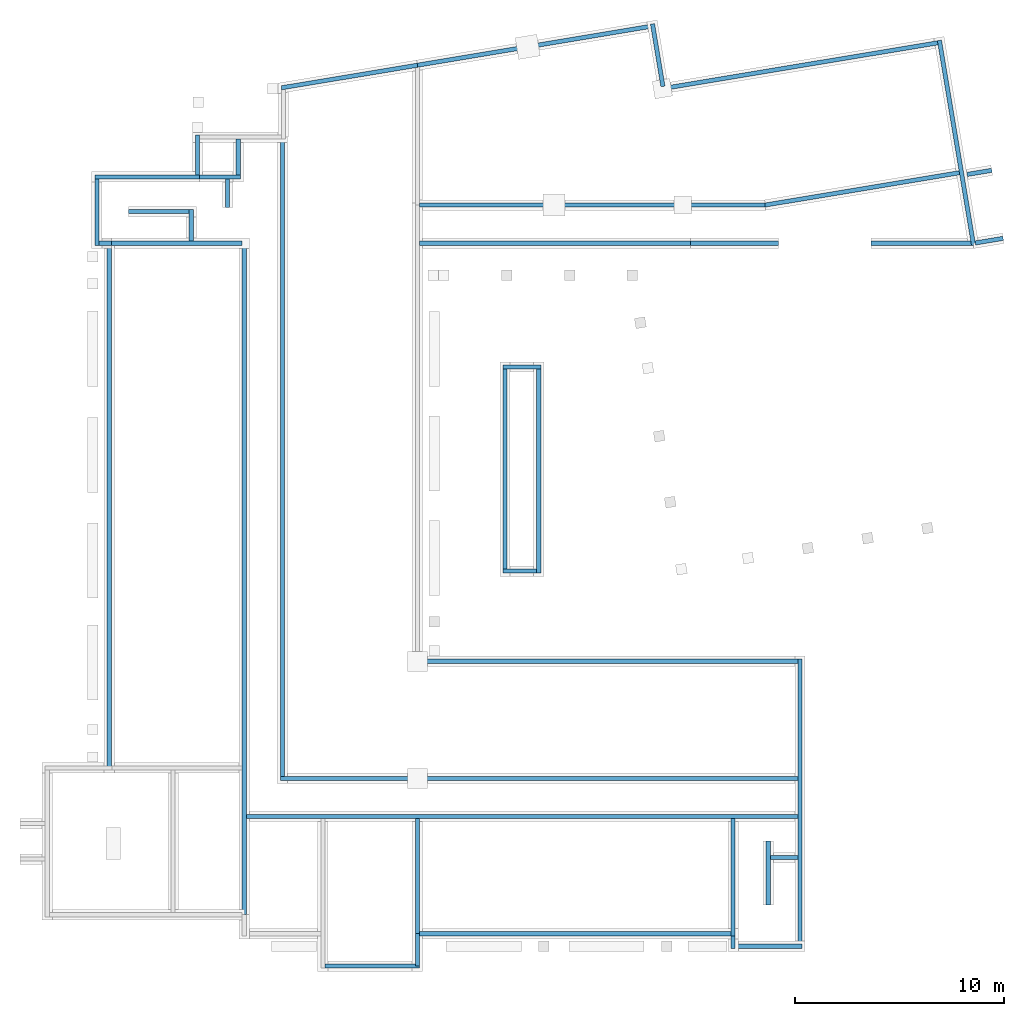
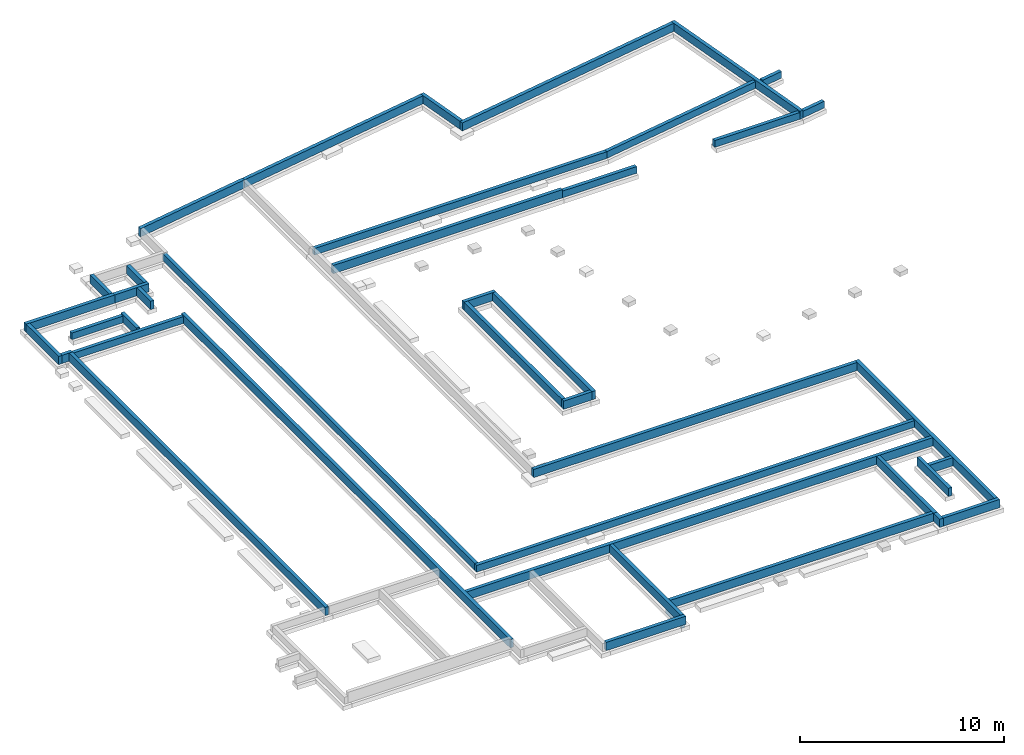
# One storey, part 4 of 5: 43 walls.
"""IFC4 building model written with IfcOpenShell, lengths in metres."""

import ifcopenshell
import ifcopenshell.guid

model = None  # the IFC model being written
_history = None  # IfcOwnerHistory: only IFC2X3 demands one
_inside = {}  # id of a spatial element -> (the spatial element, [elements in it])
_under = {}  # id of a project, library or spatial element -> (it, [spatial elements below it])
_declared = {}  # id of a project -> (the project, [libraries it declares])
_typed = {}  # id of a type object -> (the type object, [elements of that type])
_made_of = {}  # id of a material, layer set ... -> (it, [elements and type objects made of it])


def new_model(schema):
    """Start an empty IFC model of exactly this schema.

    Asked for "IFC4X3", IfcOpenShell would pick the latest addendum, in which some entities
    have other attributes; the version numbers below select the first issue.
    IFC2X3 requires an IfcOwnerHistory on every rooted entity: one is made here for all.
    """
    global model, _history
    if schema == "IFC4X3":
        model = ifcopenshell.file(schema_version=(4, 3, 0, 0))
    else:
        model = ifcopenshell.file(schema=schema)
    _inside.clear()
    _under.clear()
    _declared.clear()
    _typed.clear()
    _made_of.clear()
    _history = None
    if model.schema == "IFC2X3":
        org = make("IfcOrganization", Name="unknown")
        user = make(
            "IfcPersonAndOrganization",
            ThePerson=make("IfcPerson", FamilyName="unknown"),
            TheOrganization=org,
        )
        app = make(
            "IfcApplication",
            ApplicationDeveloper=org,
            Version="unknown",
            ApplicationFullName="unknown",
            ApplicationIdentifier="unknown",
        )
        _history = make(
            "IfcOwnerHistory",
            OwningUser=user,
            OwningApplication=app,
            ChangeAction="ADDED",
            CreationDate=0,
        )
    return model


def make(cls, **values):
    """One entity of the class cls with the attributes given. An attribute that is None is left unset."""
    return model.create_entity(
        cls, **{name: value for name, value in values.items() if value is not None}
    )


def entity(cls, *values):
    """Any entity or typed value of the class cls, its attributes in the order of the schema. None: left unset."""
    e = model.create_entity(cls)
    for i, value in enumerate(values):
        if value is not None:
            e[i] = value
    return e


def rooted(cls, **values):
    """An entity with a GlobalId (a new one), such as an element, a storey or a relation."""
    return make(cls, GlobalId=ifcopenshell.guid.new(), OwnerHistory=_history, **values)


def si_unit(unit_type, name, prefix=None):
    """IfcSIUnit, for example si_unit("LENGTHUNIT", "METRE", prefix="MILLI")."""
    return make("IfcSIUnit", UnitType=unit_type, Prefix=prefix, Name=name)


def converted_unit(unit_type, name, factor, base, dimensions=None, offset=None):
    """IfcConversionBasedUnit, such as the inch: factor (a typed value) times the base unit."""
    return make(
        "IfcConversionBasedUnit"
        if offset is None
        else "IfcConversionBasedUnitWithOffset",
        ConversionOffset=offset,
        Dimensions=None
        if dimensions is None
        else entity("IfcDimensionalExponents", *dimensions),
        UnitType=unit_type,
        Name=name,
        ConversionFactor=make(
            "IfcMeasureWithUnit", ValueComponent=factor, UnitComponent=base
        ),
    )


def derived_unit(unit_type, elements):
    """IfcDerivedUnit: a product of units, each with its exponent."""
    return make(
        "IfcDerivedUnit",
        Elements=[
            make("IfcDerivedUnitElement", Unit=unit, Exponent=power)
            for unit, power in elements
        ],
        UnitType=unit_type,
    )


def assignment(units):
    """IfcUnitAssignment: the units of a project."""
    return None if units is None else make("IfcUnitAssignment", Units=units)


def point(xyz):
    """IfcCartesianPoint."""
    return None if xyz is None else make("IfcCartesianPoint", Coordinates=xyz)


def direction(xyz):
    """IfcDirection."""
    return None if xyz is None else make("IfcDirection", DirectionRatios=xyz)


def frame(location, z_axis=None, x_axis=None):
    """IfcAxis2Placement3D, a coordinate frame: its origin and axes. An axis left out is left unset."""
    return make(
        "IfcAxis2Placement3D",
        Location=point(location),
        Axis=direction(z_axis),
        RefDirection=direction(x_axis),
    )


def origin():
    """The frame at (0, 0, 0) with its axes left unset."""
    return frame((0.0, 0.0, 0.0))


def place(relative_to, where):
    """IfcLocalPlacement: puts the frame where relative to a parent placement (None: the world)."""
    return make(
        "IfcLocalPlacement", PlacementRelTo=relative_to, RelativePlacement=where
    )


def context(
    kind, dimensions, precision=None, world=None, true_north=None, identifier=None
):
    """IfcGeometricRepresentationContext, for example the 3D "Model" context."""
    return make(
        "IfcGeometricRepresentationContext",
        ContextIdentifier=identifier,
        ContextType=kind,
        CoordinateSpaceDimension=dimensions,
        Precision=precision,
        WorldCoordinateSystem=world,
        TrueNorth=true_north,
    )


def subcontext(parent, identifier, kind, view, scale=None):
    """IfcGeometricRepresentationSubContext, for example "Body" below "Model"."""
    return make(
        "IfcGeometricRepresentationSubContext",
        ContextIdentifier=identifier,
        ContextType=kind,
        ParentContext=parent,
        TargetScale=scale,
        TargetView=view,
    )


def project(units=None, contexts=None):
    """IfcProject with its units and contexts."""
    return rooted(
        "IfcProject",
        Name="project",
        RepresentationContexts=contexts,
        UnitsInContext=assignment(units),
    )


def spatial(cls, under=None, at=None, **own):
    """A site, building, storey or space (cls), placed at a placement, below another one or the project."""
    s = rooted(cls, ObjectPlacement=at, **own)
    if under is not None:
        _under.setdefault(under.id(), (under, []))[1].append(s)
    return s


def point_list(points):
    """IfcCartesianPointList2D or 3D."""
    cls = (
        "IfcCartesianPointList2D" if len(points[0]) == 2 else "IfcCartesianPointList3D"
    )
    return make(cls, CoordList=points)


def indexed_curve(points, segments=None, self_intersect=None):
    """IfcIndexedPolyCurve: lines and arcs through numbered points (the first is 1)."""
    return make(
        "IfcIndexedPolyCurve",
        Points=point_list(points),
        Segments=segments,
        SelfIntersect=self_intersect,
    )


def outline(outer, holes=None, kind="AREA"):
    """IfcArbitraryClosedProfileDef: a profile drawn as a closed curve; with holes, ...WithVoids."""
    if holes is None:
        return make("IfcArbitraryClosedProfileDef", ProfileType=kind, OuterCurve=outer)
    return make(
        "IfcArbitraryProfileDefWithVoids",
        ProfileType=kind,
        OuterCurve=outer,
        InnerCurves=holes,
    )


def extrude(swept, where, along, depth):
    """IfcExtrudedAreaSolid: the profile swept, set in the frame where, extruded along a direction by depth."""
    return make(
        "IfcExtrudedAreaSolid",
        SweptArea=swept,
        Position=where,
        ExtrudedDirection=direction(along),
        Depth=depth,
    )


def shape(context_of_items, identifier, shape_type, items):
    """IfcShapeRepresentation: the items that make up one representation, for example the "Body"."""
    return make(
        "IfcShapeRepresentation",
        ContextOfItems=context_of_items,
        RepresentationIdentifier=identifier,
        RepresentationType=shape_type,
        Items=items,
    )


def material(Name=None, Category=None):
    """IfcMaterial."""
    return make("IfcMaterial", Name=Name, Category=Category)


def made_of(thing, what):
    """Note that an element or type object is made of a material, layer set ...; save() writes the relation."""
    if what is not None:
        _made_of.setdefault(what.id(), (what, []))[1].append(thing)
    return thing


def type_object(cls, material=None, **own):
    """A type object (cls), such as IfcWallType, which elements share."""
    return made_of(rooted(cls, **own), material)


def element(
    cls,
    number,
    at=None,
    inside=None,
    cuts=None,
    type_object=None,
    material=None,
    context=None,
    identifier="Body",
    shape_type=None,
    held_by="IfcProductDefinitionShape",
    body=None,
    shapes=None,
    **own,
):
    """One element of the class cls, such as IfcWall. Its Tag is "e" and its number.

    at: its placement. inside: the storey or other place that contains it. cuts: it is an
    opening in that element (IfcRelVoidsElement). A single representation is given by context,
    identifier, shape_type and body (its items); several are given by shapes. held_by: the class
    of the entity that holds the representations. save() writes the other relations.
    """
    e = rooted(cls, Tag="e%d" % number, ObjectPlacement=at, **own)
    if body is not None:
        shapes = [shape(context, identifier, shape_type, body)]
    if shapes is not None:
        e.Representation = make(held_by, Representations=shapes)
    if inside is not None:
        _inside.setdefault(inside.id(), (inside, []))[1].append(e)
    if cuts is not None:
        rooted(
            "IfcRelVoidsElement", RelatingBuildingElement=cuts, RelatedOpeningElement=e
        )
    if type_object is not None:
        _typed.setdefault(type_object.id(), (type_object, []))[1].append(e)
    return made_of(e, material)


def aggregate(whole, parts):
    """IfcRelAggregates: a whole, such as a stair, and the parts it consists of."""
    return rooted("IfcRelAggregates", RelatingObject=whole, RelatedObjects=parts)


def save(model, path):
    """Write the relations noted so far, then the file.

    IfcRelAggregates (storeys below a building ...), IfcRelContainedInSpatialStructure (elements
    in a storey), IfcRelDefinesByType, IfcRelAssociatesMaterial and IfcRelDeclares: one each for
    every whole, place, type object, material and project.
    """
    for whole, parts in _under.values():
        aggregate(whole, parts)
    for where, things in _inside.values():
        rooted(
            "IfcRelContainedInSpatialStructure",
            RelatedElements=things,
            RelatingStructure=where,
        )
    for kind, things in _typed.values():
        rooted("IfcRelDefinesByType", RelatedObjects=things, RelatingType=kind)
    for what, things in _made_of.values():
        rooted("IfcRelAssociatesMaterial", RelatedObjects=things, RelatingMaterial=what)
    for by, libraries in _declared.values():
        rooted("IfcRelDeclares", RelatingContext=by, RelatedDefinitions=libraries)
    model.write(path)


model = new_model("IFC4")

# Units and contexts
model_context = context("Model", 3, precision=1e-05, world=origin(), true_north=direction((6.123031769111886e-17, 1.0)))
body_context = subcontext(model_context, "Body", "Model", "MODEL_VIEW")
ifc_project = project(units=[si_unit("LENGTHUNIT", "METRE"), si_unit("AREAUNIT", "SQUARE_METRE"), si_unit("VOLUMEUNIT", "CUBIC_METRE"), converted_unit("PLANEANGLEUNIT", "DEGREE", entity("IfcRatioMeasure", 0.017453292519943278), si_unit("PLANEANGLEUNIT", "RADIAN"), dimensions=[0, 0, 0, 0, 0, 0, 0]), si_unit("MASSUNIT", "GRAM", prefix="KILO"), derived_unit("MASSDENSITYUNIT", [(si_unit("MASSUNIT", "GRAM", prefix="KILO"), 1), (si_unit("LENGTHUNIT", "METRE"), -3)]), derived_unit("MOMENTOFINERTIAUNIT", [(si_unit("LENGTHUNIT", "METRE"), 4)]), si_unit("TIMEUNIT", "SECOND"), si_unit("FREQUENCYUNIT", "HERTZ"), si_unit("THERMODYNAMICTEMPERATUREUNIT", "DEGREE_CELSIUS"), derived_unit("THERMALTRANSMITTANCEUNIT", [(si_unit("MASSUNIT", "GRAM", prefix="KILO"), 1), (si_unit("THERMODYNAMICTEMPERATUREUNIT", "KELVIN"), -1), (si_unit("TIMEUNIT", "SECOND"), -3)]), derived_unit("VOLUMETRICFLOWRATEUNIT", [(si_unit("LENGTHUNIT", "METRE"), 3), (si_unit("TIMEUNIT", "SECOND"), -1)]), derived_unit("MASSFLOWRATEUNIT", [(si_unit("MASSUNIT", "GRAM", prefix="KILO"), 1), (si_unit("TIMEUNIT", "SECOND"), -1)]), derived_unit("ROTATIONALFREQUENCYUNIT", [(si_unit("TIMEUNIT", "SECOND"), -1)]), si_unit("ELECTRICCURRENTUNIT", "AMPERE"), si_unit("ELECTRICVOLTAGEUNIT", "VOLT"), si_unit("POWERUNIT", "WATT"), si_unit("FORCEUNIT", "NEWTON", prefix="KILO"), si_unit("ILLUMINANCEUNIT", "LUX"), si_unit("LUMINOUSFLUXUNIT", "LUMEN"), si_unit("LUMINOUSINTENSITYUNIT", "CANDELA"), derived_unit("USERDEFINED", [(si_unit("MASSUNIT", "GRAM", prefix="KILO"), -1), (si_unit("LENGTHUNIT", "METRE"), -2), (si_unit("TIMEUNIT", "SECOND"), 3), (si_unit("LUMINOUSFLUXUNIT", "LUMEN"), 1)]), derived_unit("SOUNDPOWERUNIT", [(si_unit("MASSUNIT", "GRAM", prefix="KILO"), 1), (si_unit("LENGTHUNIT", "METRE"), 2), (si_unit("TIMEUNIT", "SECOND"), -3)]), derived_unit("SOUNDPRESSUREUNIT", [(si_unit("MASSUNIT", "GRAM", prefix="KILO"), 1), (si_unit("LENGTHUNIT", "METRE"), -1), (si_unit("TIMEUNIT", "SECOND"), -2)]), derived_unit("LINEARVELOCITYUNIT", [(si_unit("LENGTHUNIT", "METRE"), 1), (si_unit("TIMEUNIT", "SECOND"), -1)]), si_unit("PRESSUREUNIT", "PASCAL"), derived_unit("USERDEFINED", [(si_unit("LENGTHUNIT", "METRE"), -2), (si_unit("MASSUNIT", "GRAM", prefix="KILO"), 1), (si_unit("TIMEUNIT", "SECOND"), -2)]), derived_unit("LINEARFORCEUNIT", [(si_unit("MASSUNIT", "GRAM", prefix="KILO"), 1), (si_unit("LENGTHUNIT", "METRE"), 1), (si_unit("TIMEUNIT", "SECOND"), -2), (si_unit("LENGTHUNIT", "METRE"), -1)]), derived_unit("PLANARFORCEUNIT", [(si_unit("MASSUNIT", "GRAM", prefix="KILO"), 1), (si_unit("LENGTHUNIT", "METRE"), 1), (si_unit("TIMEUNIT", "SECOND"), -2), (si_unit("LENGTHUNIT", "METRE"), -2)])], contexts=[model_context])

# Site, building, storey
site_placement = place(None, origin())
site = spatial("IfcSite", under=ifc_project, at=site_placement, Name="Default", CompositionType="ELEMENT")
building_placement = place(site_placement, origin())
building = spatial("IfcBuilding", under=site, at=building_placement, CompositionType="ELEMENT")
storey_placement = place(building_placement, frame((0.0, 0.0, -0.88)))
storey = spatial("IfcBuildingStorey", under=building, at=storey_placement, Name="Arase inf soubassement", CompositionType="ELEMENT", Elevation=-0.88)

# Walls
ifc_material_1 = material(Name="Mur par défaut", Category="Divers")
wall_type_1 = type_object("IfcWallType", Name="Mur de base:Libages blocs pleins", PredefinedType="STANDARD")
wall_1_placement = place(storey_placement, frame((15.34988945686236, 10.590463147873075, 0.25), z_axis=(0.0, 0.0, 1.0), x_axis=(-0.16418684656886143, 0.9864292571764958, 0.0)))
element("IfcWall", 1, at=wall_1_placement, inside=storey, type_object=wall_type_1, material=ifc_material_1, Name="Mur de base:Libages blocs pleins", ObjectType="Mur de base:Libages blocs pleins", PredefinedType="NOTDEFINED", context=body_context, shape_type="SweptSolid", body=[
    extrude(outline(indexed_curve([(9.93999999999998, 0.10000000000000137), (-4.737543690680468e-16, 0.10000000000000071), (4.737543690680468e-16, -0.10000000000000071), (9.93999999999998, -0.1), (9.93999999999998, 0.10000000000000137)], self_intersect=False)), origin(), (0.0, 0.0, 1.0), 0.48),
])
wall_2_placement = place(storey_placement, frame((13.635647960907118, 20.280508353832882, 0.25), z_axis=(0.0, 0.0, 1.0), x_axis=(-0.9864292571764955, -0.16418684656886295, 0.0)))
element("IfcWall", 2, at=wall_2_placement, inside=storey, type_object=wall_type_1, material=ifc_material_1, Name="Mur de base:Libages blocs pleins", ObjectType="Mur de base:Libages blocs pleins", PredefinedType="NOTDEFINED", context=body_context, shape_type="SweptSolid", body=[
    extrude(outline(indexed_curve([(13.410000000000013, 0.09999999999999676), (-6.767919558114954e-16, 0.0999999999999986), (6.767919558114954e-16, -0.0999999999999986), (13.410000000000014, -0.10000000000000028), (13.410000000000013, 0.09999999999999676)], self_intersect=False)), origin(), (0.0, 0.0, 1.0), 0.48),
])
wall_3_placement = place(storey_placement, frame((0.4898558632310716, 18.19382435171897, 0.25), z_axis=(0.0, 0.0, 1.0), x_axis=(-0.16418684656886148, 0.9864292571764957, 0.0)))
element("IfcWall", 3, at=wall_3_placement, inside=storey, type_object=wall_type_1, material=ifc_material_1, Name="Mur de base:Libages blocs pleins", ObjectType="Mur de base:Libages blocs pleins", PredefinedType="NOTDEFINED", context=body_context, shape_type="SweptSolid", body=[
    extrude(outline(indexed_curve([(3.030000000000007, 0.10000000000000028), (-5.668132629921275e-16, 0.1000000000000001), (5.668132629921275e-16, -0.1000000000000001), (3.0300000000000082, -0.09999999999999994), (3.030000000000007, 0.10000000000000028)], self_intersect=False)), origin(), (0.0, 0.0, 1.0), 0.48),
])
wall_4_placement = place(storey_placement, frame((-0.08985452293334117, 21.06764339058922, 0.25), z_axis=(0.0, 0.0, 1.0), x_axis=(-0.9864292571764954, -0.1641868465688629, 0.0)))
element("IfcWall", 4, at=wall_4_placement, inside=storey, type_object=wall_type_1, material=ifc_material_1, Name="Mur de base:Libages blocs pleins", ObjectType="Mur de base:Libages blocs pleins", PredefinedType="NOTDEFINED", context=body_context, shape_type="SweptSolid", body=[
    extrude(outline(indexed_curve([(11.317178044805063, 0.09999999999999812), (-2.284172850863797e-16, 0.0999999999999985), (2.622568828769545e-16, -0.09999999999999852), (11.317178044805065, -0.0999999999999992), (11.317178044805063, 0.09999999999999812)], self_intersect=False)), origin(), (0.0, 0.0, 1.0), 0.48),
])
wall_5_placement = place(storey_placement, frame((-11.253450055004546, 19.209511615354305, 0.25), z_axis=(0.0, 0.0, 1.0), x_axis=(-0.9864292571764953, -0.16418684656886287, 0.0)))
element("IfcWall", 5, at=wall_5_placement, inside=storey, type_object=wall_type_1, material=ifc_material_1, Name="Mur de base:Libages blocs pleins", ObjectType="Mur de base:Libages blocs pleins", PredefinedType="NOTDEFINED", context=body_context, shape_type="SweptSolid", body=[
    extrude(outline(indexed_curve([(6.584731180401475, -0.09999999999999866), (6.618020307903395, 0.09999999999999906), (6.4152688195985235, 0.09999999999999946), (0.11802030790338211, 0.10000000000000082), (-3.2359115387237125e-16, 0.10000000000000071), (6.810219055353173e-16, -0.09999999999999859), (6.584731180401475, -0.09999999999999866)], self_intersect=False)), origin(), (0.0, 0.0, 1.0), 0.4899999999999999),
])
wall_6_placement = place(storey_placement, frame((-21.673450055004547, 13.869106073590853, 0.25), z_axis=(0.0, 0.0, 1.0), x_axis=(-1.0, 0.0, 0.0)))
element("IfcWall", 6, at=wall_6_placement, inside=storey, type_object=wall_type_1, material=ifc_material_1, Name="Mur de base:Libages blocs pleins", ObjectType="Mur de base:Libages blocs pleins", PredefinedType="NOTDEFINED", context=body_context, shape_type="SweptSolid", body=[
    extrude(outline(indexed_curve([(5.010000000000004, 0.10000000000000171), (-3.151796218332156e-16, 0.10000000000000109), (3.151796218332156e-16, -0.10000000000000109), (5.010000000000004, -0.10000000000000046), (5.010000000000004, 0.10000000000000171)], self_intersect=False)), origin(), (0.0, 0.0, 1.0), 0.49),
])
wall_7_placement = place(storey_placement, frame((-26.583450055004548, 13.769106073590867, 0.25), z_axis=(0.0, 0.0, 1.0), x_axis=(0.0, -1.0, 0.0)))
element("IfcWall", 7, at=wall_7_placement, inside=storey, type_object=wall_type_1, material=ifc_material_1, Name="Mur de base:Libages blocs pleins", ObjectType="Mur de base:Libages blocs pleins", PredefinedType="NOTDEFINED", context=body_context, shape_type="SweptSolid", body=[
    extrude(outline(indexed_curve([(3.1800000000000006, 0.09999999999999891), (-1.3580303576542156e-16, 0.09999999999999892), (1.3580303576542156e-16, -0.09999999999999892), (3.1800000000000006, -0.09999999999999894), (3.1800000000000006, 0.09999999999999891)], self_intersect=False)), origin(), (0.0, 0.0, 1.0), 0.49),
])
wall_8_placement = place(storey_placement, frame((-26.483450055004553, 10.689106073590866, 0.25)))
element("IfcWall", 8, at=wall_8_placement, inside=storey, type_object=wall_type_1, material=ifc_material_1, Name="Mur de base:Libages blocs pleins", ObjectType="Mur de base:Libages blocs pleins", PredefinedType="NOTDEFINED", context=body_context, shape_type="SweptSolid", body=[
    extrude(outline(indexed_curve([(0.5899999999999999, 0.10000000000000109), (-3.6707360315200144e-16, 0.10000000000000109), (3.6707360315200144e-16, -0.10000000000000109), (0.5900000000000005, -0.10000000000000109), (0.5899999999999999, 0.10000000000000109)], self_intersect=False)), origin(), (0.0, 0.0, 1.0), 0.49),
])
wall_9_placement = place(storey_placement, frame((-25.99345005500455, 10.589106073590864, 0.25), z_axis=(0.0, 0.0, 1.0), x_axis=(0.0, -1.0, 0.0)))
element("IfcWall", 9, at=wall_9_placement, inside=storey, type_object=wall_type_1, material=ifc_material_1, Name="Mur de base:Libages blocs pleins", ObjectType="Mur de base:Libages blocs pleins", PredefinedType="NOTDEFINED", context=body_context, shape_type="SweptSolid", body=[
    extrude(outline(indexed_curve([(25.095000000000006, 0.09999999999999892), (-1.5534256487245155e-16, 0.09999999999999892), (1.5534256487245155e-16, -0.09999999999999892), (25.095000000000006, -0.09999999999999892), (25.095000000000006, 0.09999999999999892)], self_intersect=False)), origin(), (0.0, 0.0, 1.0), 0.49),
])
wall_10_placement = place(storey_placement, frame((-11.153450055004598, -22.335893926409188, 0.25)))
element("IfcWall", 10, at=wall_10_placement, inside=storey, type_object=wall_type_1, material=ifc_material_1, Name="Mur de base:Libages blocs pleins", ObjectType="Mur de base:Libages blocs pleins", PredefinedType="NOTDEFINED", context=body_context, shape_type="SweptSolid", body=[
    extrude(outline(indexed_curve([(15.100000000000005, 0.09999999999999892), (-3.155374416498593e-16, 0.09999999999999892), (3.155374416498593e-16, -0.09999999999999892), (15.100000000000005, -0.09999999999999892), (15.100000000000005, 0.09999999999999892)], self_intersect=False)), origin(), (0.0, 0.0, 1.0), 0.4899999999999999),
])
wall_11_placement = place(storey_placement, frame((3.846549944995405, -22.43589392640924, 0.25), z_axis=(0.0, 0.0, 1.0), x_axis=(0.0, -1.0, 0.0)))
element("IfcWall", 11, at=wall_11_placement, inside=storey, type_object=wall_type_1, material=ifc_material_1, Name="Mur de base:Libages blocs pleins", ObjectType="Mur de base:Libages blocs pleins", PredefinedType="NOTDEFINED", context=body_context, shape_type="SweptSolid", body=[
    extrude(outline(indexed_curve([(0.5999999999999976, 0.10000000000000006), (-1.897615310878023e-16, 0.1), (1.897615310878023e-16, -0.1), (0.5999999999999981, -0.09999999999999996), (0.5999999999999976, 0.10000000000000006)], self_intersect=False)), origin(), (0.0, 0.0, 1.0), 0.4899999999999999),
])
wall_12_placement = place(storey_placement, frame((3.9465499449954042, -22.935893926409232, 0.25)))
element("IfcWall", 12, at=wall_12_placement, inside=storey, type_object=wall_type_1, material=ifc_material_1, Name="Mur de base:Libages blocs pleins", ObjectType="Mur de base:Libages blocs pleins", PredefinedType="NOTDEFINED", context=body_context, shape_type="SweptSolid", body=[
    extrude(outline(indexed_curve([(3.2, 0.09999999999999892), (-2.706812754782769e-16, 0.09999999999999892), (2.706812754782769e-16, -0.09999999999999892), (3.2, -0.09999999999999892), (3.2, 0.09999999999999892)], self_intersect=False)), origin(), (0.0, 0.0, 1.0), 0.4899999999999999),
])
wall_13_placement = place(storey_placement, frame((7.046549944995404, -22.83589392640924, 0.25), z_axis=(0.0, 0.0, 1.0), x_axis=(0.0, 1.0, 0.0)))
element("IfcWall", 13, at=wall_13_placement, inside=storey, type_object=wall_type_1, material=ifc_material_1, Name="Mur de base:Libages blocs pleins", ObjectType="Mur de base:Libages blocs pleins", PredefinedType="NOTDEFINED", context=body_context, shape_type="SweptSolid", body=[
    extrude(outline(indexed_curve([(13.629999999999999, 0.1), (-1.3506046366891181e-16, 0.1), (1.3506046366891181e-16, -0.1), (13.629999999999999, -0.1), (13.629999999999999, 0.1)], self_intersect=False)), origin(), (0.0, 0.0, 1.0), 0.49),
])
wall_14_placement = place(storey_placement, frame((6.946549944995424, -9.305893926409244, 0.25), z_axis=(0.0, 0.0, 1.0), x_axis=(-1.0, 0.0, 0.0)))
element("IfcWall", 14, at=wall_14_placement, inside=storey, type_object=wall_type_1, material=ifc_material_1, Name="Mur de base:Libages blocs pleins", ObjectType="Mur de base:Libages blocs pleins", PredefinedType="NOTDEFINED", context=body_context, shape_type="SweptSolid", body=[
    extrude(outline(indexed_curve([(18.300000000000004, 0.1), (-3.2545186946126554e-16, 0.1), (3.2545186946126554e-16, -0.1), (18.300000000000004, -0.1), (18.300000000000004, 0.1)], self_intersect=False)), origin(), (0.0, 0.0, 1.0), 0.4899999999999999),
])
wall_15_placement = place(storey_placement, frame((-11.153450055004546, 10.689106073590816, 0.25)))
element("IfcWall", 15, at=wall_15_placement, inside=storey, type_object=wall_type_1, material=ifc_material_1, Name="Mur de base:Libages blocs pleins", ObjectType="Mur de base:Libages blocs pleins", PredefinedType="NOTDEFINED", context=body_context, shape_type="SweptSolid", body=[
    extrude(outline(indexed_curve([(12.967012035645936, 0.0999999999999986), (-3.1490711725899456e-16, 0.09999999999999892), (3.1490711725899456e-16, -0.09999999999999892), (12.967012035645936, -0.09999999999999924), (12.967012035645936, 0.0999999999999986)], self_intersect=False)), origin(), (0.0, 0.0, 1.0), 0.4899999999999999),
])
wall_16_placement = place(storey_placement, frame((-7.163450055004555, 4.7741060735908, 0.25)))
element("IfcWall", 16, at=wall_16_placement, inside=storey, type_object=wall_type_1, material=ifc_material_1, Name="Mur de base:Libages blocs pleins", ObjectType="Mur de base:Libages blocs pleins", PredefinedType="NOTDEFINED", context=body_context, shape_type="SweptSolid", body=[
    extrude(outline(indexed_curve([(1.8099999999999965, 0.0999999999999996), (-3.362941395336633e-16, 0.1), (3.362941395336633e-16, -0.1), (1.8099999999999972, -0.10000000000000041), (1.8099999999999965, 0.0999999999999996)], self_intersect=False)), origin(), (0.0, 0.0, 1.0), 0.4899999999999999),
])
wall_17_placement = place(storey_placement, frame((-5.4534500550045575, 4.674106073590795, 0.25), z_axis=(0.0, 0.0, 1.0), x_axis=(0.0, -1.0, 0.0)))
element("IfcWall", 17, at=wall_17_placement, inside=storey, type_object=wall_type_1, material=ifc_material_1, Name="Mur de base:Libages blocs pleins", ObjectType="Mur de base:Libages blocs pleins", PredefinedType="NOTDEFINED", context=body_context, shape_type="SweptSolid", body=[
    extrude(outline(indexed_curve([(9.760000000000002, 0.1), (-1.664242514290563e-16, 0.1), (1.664242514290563e-16, -0.1), (9.760000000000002, -0.1), (9.760000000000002, 0.1)], self_intersect=False)), origin(), (0.0, 0.0, 1.0), 0.4899999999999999),
])
wall_18_placement = place(storey_placement, frame((-5.553450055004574, -4.985893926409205, 0.25), z_axis=(0.0, 0.0, 1.0), x_axis=(-1.0, 0.0, 0.0)))
element("IfcWall", 18, at=wall_18_placement, inside=storey, type_object=wall_type_1, material=ifc_material_1, Name="Mur de base:Libages blocs pleins", ObjectType="Mur de base:Libages blocs pleins", PredefinedType="NOTDEFINED", context=body_context, shape_type="SweptSolid", body=[
    extrude(outline(indexed_curve([(1.6099999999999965, 0.1), (-3.3629413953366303e-16, 0.1), (3.3629413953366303e-16, -0.1), (1.609999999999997, -0.1), (1.6099999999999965, 0.1)], self_intersect=False)), origin(), (0.0, 0.0, 1.0), 0.4899999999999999),
])
wall_19_placement = place(storey_placement, frame((-7.06345005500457, -4.885893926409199, 0.25), z_axis=(0.0, 0.0, 1.0), x_axis=(0.0, 1.0, 0.0)))
element("IfcWall", 19, at=wall_19_placement, inside=storey, type_object=wall_type_1, material=ifc_material_1, Name="Mur de base:Libages blocs pleins", ObjectType="Mur de base:Libages blocs pleins", PredefinedType="NOTDEFINED", context=body_context, shape_type="SweptSolid", body=[
    extrude(outline(indexed_curve([(9.559999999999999, 0.09999999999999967), (-1.664242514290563e-16, 0.1), (1.664242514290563e-16, -0.1), (9.559999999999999, -0.10000000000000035), (9.559999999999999, 0.09999999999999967)], self_intersect=False)), origin(), (0.0, 0.0, 1.0), 0.4899999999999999),
])
wall_type_2 = type_object("IfcWallType", Name="Mur de base:Libages BA", PredefinedType="STANDARD")
wall_20_placement = place(storey_placement, frame((16.22197660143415, 14.182393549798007, 0.25), z_axis=(0.0, 0.0, 1.0), x_axis=(-0.9864292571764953, -0.1641868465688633, 0.0)))
element("IfcWall", 20, at=wall_20_placement, inside=storey, type_object=wall_type_2, material=ifc_material_1, Name="Mur de base:Libages BA", ObjectType="Mur de base:Libages BA", PredefinedType="NOTDEFINED", context=body_context, shape_type="SweptSolid", body=[
    extrude(outline(indexed_curve([(1.2000000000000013, 0.1000000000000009), (-2.8340663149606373e-16, 0.10000000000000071), (2.8340663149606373e-16, -0.10000000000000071), (1.200000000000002, -0.10000000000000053), (1.2000000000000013, 0.1000000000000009)], self_intersect=False)), origin(), (0.0, 0.0, 1.0), 0.4),
])
wall_21_placement = place(storey_placement, frame((14.670025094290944, 14.066004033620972, 0.25), z_axis=(0.0, 0.0, 1.0), x_axis=(-0.9864292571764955, -0.16418684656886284, 0.0)))
element("IfcWall", 21, at=wall_21_placement, inside=storey, type_object=wall_type_2, material=ifc_material_1, Name="Mur de base:Libages BA", ObjectType="Mur de base:Libages BA", PredefinedType="NOTDEFINED", context=body_context, shape_type="SweptSolid", body=[
    extrude(outline(indexed_curve([(9.413305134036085, -0.09999999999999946), (9.429835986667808, 0.10000000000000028), (-3.3205105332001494e-16, 0.10000000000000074), (2.8234914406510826e-15, -0.09999999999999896), (9.413305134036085, -0.09999999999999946)], self_intersect=False)), origin(), (0.0, 0.0, 1.0), 0.4),
])
wall_22_placement = place(storey_placement, frame((5.38457767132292, 12.519106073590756, 0.25), z_axis=(0.0, 0.0, 1.0), x_axis=(-1.0, 0.0, 0.0)))
element("IfcWall", 22, at=wall_22_placement, inside=storey, type_object=wall_type_2, material=ifc_material_1, Name="Mur de base:Libages BA", ObjectType="Mur de base:Libages BA", PredefinedType="NOTDEFINED", context=body_context, shape_type="SweptSolid", body=[
    extrude(outline(indexed_curve([(16.538027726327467, -0.1000000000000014), (16.538027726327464, 0.09999999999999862), (1.8401531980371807e-15, 0.09999999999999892), (0.016530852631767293, -0.10000000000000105), (16.538027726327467, -0.1000000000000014)], self_intersect=False)), origin(), (0.0, 0.0, 1.0), 0.4),
])
wall_23_placement = place(storey_placement, frame((15.43211369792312, 10.70552475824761, 0.25), z_axis=(0.0, 0.0, 1.0), x_axis=(0.9864292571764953, 0.1641868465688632, 0.0)))
element("IfcWall", 23, at=wall_23_placement, inside=storey, type_object=wall_type_2, material=ifc_material_1, Name="Mur de base:Libages BA", ObjectType="Mur de base:Libages BA", PredefinedType="NOTDEFINED", context=body_context, shape_type="SweptSolid", body=[
    extrude(outline(indexed_curve([(1.3500000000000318, 0.10000000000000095), (-2.9186653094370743e-16, 0.10000000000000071), (2.9186653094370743e-16, -0.10000000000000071), (1.3500000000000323, -0.1000000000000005), (1.3500000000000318, 0.10000000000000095)], self_intersect=False)), origin(), (0.0, 0.0, 1.0), 0.4),
])
wall_24_placement = place(storey_placement, frame((16.76379319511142, 10.92717700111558, 0.25), z_axis=(0.0, 0.0, 1.0), x_axis=(-0.9864292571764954, -0.1641868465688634, 0.0)))
element("IfcWall", 24, at=wall_24_placement, inside=storey, type_object=wall_type_2, material=ifc_material_1, Name="Mur de base:Libages BA", ObjectType="Mur de base:Libages BA", PredefinedType="NOTDEFINED", context=body_context, shape_type="SweptSolid", body=[
    extrude(outline(indexed_curve([(1.350000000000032, 0.10000000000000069), (-2.7494673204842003e-16, 0.10000000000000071), (2.7494673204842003e-16, -0.10000000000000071), (1.3500000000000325, -0.10000000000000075), (1.350000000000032, 0.10000000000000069)], self_intersect=False)), origin(), (0.0, 0.0, 1.0), 0.4),
])
wall_25_placement = place(storey_placement, frame((15.248739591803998, 10.689106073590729, 0.25), z_axis=(0.0, 0.0, 1.0), x_axis=(-1.0, 0.0, 0.0)))
element("IfcWall", 25, at=wall_25_placement, inside=storey, type_object=wall_type_2, material=ifc_material_1, Name="Mur de base:Libages BA", ObjectType="Mur de base:Libages BA", PredefinedType="NOTDEFINED", context=body_context, shape_type="SweptSolid", body=[
    extrude(outline(indexed_curve([(4.8152688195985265, -0.09999999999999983), (4.815268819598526, 0.1000000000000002), (-3.412440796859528e-16, 0.09999999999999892), (0.03328912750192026, -0.10000000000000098), (4.8152688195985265, -0.09999999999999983)], self_intersect=False)), origin(), (0.0, 0.0, 1.0), 0.4),
])
wall_26_placement = place(storey_placement, frame((6.023561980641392, 10.689106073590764, 0.25), z_axis=(0.0, 0.0, 1.0), x_axis=(-1.0, 0.0, 0.0)))
element("IfcWall", 26, at=wall_26_placement, inside=storey, type_object=wall_type_2, material=ifc_material_1, Name="Mur de base:Libages BA", ObjectType="Mur de base:Libages BA", PredefinedType="NOTDEFINED", context=body_context, shape_type="SweptSolid", body=[
    extrude(outline(indexed_curve([(4.210000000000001, 0.0999999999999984), (-3.477768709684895e-16, 0.09999999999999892), (3.477768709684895e-16, -0.09999999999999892), (4.210000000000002, -0.09999999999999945), (4.210000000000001, 0.0999999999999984)], self_intersect=False)), origin(), (0.0, 0.0, 1.0), 0.4),
])
wall_27_placement = place(storey_placement, frame((6.946549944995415, -14.905893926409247, 0.25), z_axis=(0.0, 0.0, 1.0), x_axis=(-1.0, 0.0, 0.0)))
element("IfcWall", 27, at=wall_27_placement, inside=storey, type_object=wall_type_2, material=ifc_material_1, Name="Mur de base:Libages BA", ObjectType="Mur de base:Libages BA", PredefinedType="NOTDEFINED", context=body_context, shape_type="SweptSolid", body=[
    extrude(outline(indexed_curve([(24.759999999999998, 0.09999999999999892), (-3.236355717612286e-16, 0.09999999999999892), (3.236355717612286e-16, -0.09999999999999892), (24.759999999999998, -0.09999999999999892), (24.759999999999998, 0.09999999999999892)], self_intersect=False)), origin(), (0.0, 0.0, 1.0), 0.4),
])
wall_28_placement = place(storey_placement, frame((-17.713450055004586, -14.805893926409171, 0.25), z_axis=(0.0, 0.0, 1.0), x_axis=(0.0, 1.0, 0.0)))
element("IfcWall", 28, at=wall_28_placement, inside=storey, type_object=wall_type_2, material=ifc_material_1, Name="Mur de base:Libages BA", ObjectType="Mur de base:Libages BA", PredefinedType="NOTDEFINED", context=body_context, shape_type="SweptSolid", body=[
    extrude(outline(indexed_curve([(30.575000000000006, 0.09999999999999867), (-1.62113647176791e-16, 0.09999999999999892), (1.62113647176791e-16, -0.09999999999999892), (30.575000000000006, -0.09999999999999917), (30.575000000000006, 0.09999999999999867)], self_intersect=False)), origin(), (0.0, 0.0, 1.0), 0.4),
])
wall_29_placement = place(storey_placement, frame((-19.53345005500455, 10.789106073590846, 0.25), z_axis=(0.0, 0.0, 1.0), x_axis=(0.0, -1.0, 0.0)))
element("IfcWall", 29, at=wall_29_placement, inside=storey, type_object=wall_type_2, material=ifc_material_1, Name="Mur de base:Libages BA", ObjectType="Mur de base:Libages BA", PredefinedType="NOTDEFINED", context=body_context, shape_type="SweptSolid", body=[
    extrude(outline(indexed_curve([(32.215, 0.10000000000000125), (-1.6184842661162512e-16, 0.10000000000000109), (1.6184842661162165e-16, -0.09999999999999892), (32.215, -0.09999999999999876), (32.215, 0.10000000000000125)], self_intersect=False)), origin(), (0.0, 0.0, 1.0), 0.49),
])
wall_30_placement = place(storey_placement, frame((-19.433450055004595, -16.72589392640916, 0.25)))
element("IfcWall", 30, at=wall_30_placement, inside=storey, type_object=wall_type_2, material=ifc_material_1, Name="Mur de base:Libages BA", ObjectType="Mur de base:Libages BA", PredefinedType="NOTDEFINED", context=body_context, shape_type="SweptSolid", body=[
    extrude(outline(indexed_curve([(26.38000000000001, 0.10000000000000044), (-3.2591937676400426e-16, 0.10000000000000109), (3.2591937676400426e-16, -0.10000000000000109), (26.38000000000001, -0.10000000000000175), (26.38000000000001, 0.10000000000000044)], self_intersect=False)), origin(), (0.0, 0.0, 1.0), 0.49),
])
wall_31_placement = place(storey_placement, frame((-19.633450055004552, 10.689106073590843, 0.25), z_axis=(0.0, 0.0, 1.0), x_axis=(-1.0, 0.0, 0.0)))
element("IfcWall", 31, at=wall_31_placement, inside=storey, type_object=wall_type_2, material=ifc_material_1, Name="Mur de base:Libages BA", ObjectType="Mur de base:Libages BA", PredefinedType="NOTDEFINED", context=body_context, shape_type="SweptSolid", body=[
    extrude(outline(indexed_curve([(6.2600000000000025, 0.09999999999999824), (-3.3525298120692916e-16, 0.09999999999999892), (3.3525298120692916e-16, -0.09999999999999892), (6.2600000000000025, -0.0999999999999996), (6.2600000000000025, 0.09999999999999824)], self_intersect=False)), origin(), (0.0, 0.0, 1.0), 0.4),
])
wall_32_placement = place(storey_placement, frame((-22.07345005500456, 10.789106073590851, 0.25), z_axis=(0.0, 0.0, 1.0), x_axis=(0.0, 1.0, 0.0)))
element("IfcWall", 32, at=wall_32_placement, inside=storey, type_object=wall_type_2, material=ifc_material_1, Name="Mur de base:Libages BA", ObjectType="Mur de base:Libages BA", PredefinedType="NOTDEFINED", context=body_context, shape_type="SweptSolid", body=[
    extrude(outline(indexed_curve([(1.5199999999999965, 0.09999999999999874), (-2.72419403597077e-16, 0.09999999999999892), (2.72419403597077e-16, -0.09999999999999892), (1.519999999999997, -0.09999999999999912), (1.5199999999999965, 0.09999999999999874)], self_intersect=False)), origin(), (0.0, 0.0, 1.0), 0.4899999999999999),
])
wall_33_placement = place(storey_placement, frame((-22.173450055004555, 12.209106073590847, 0.25), z_axis=(0.0, 0.0, 1.0), x_axis=(-1.0, 0.0, 0.0)))
element("IfcWall", 33, at=wall_33_placement, inside=storey, type_object=wall_type_2, material=ifc_material_1, Name="Mur de base:Libages BA", ObjectType="Mur de base:Libages BA", PredefinedType="NOTDEFINED", context=body_context, shape_type="SweptSolid", body=[
    extrude(outline(indexed_curve([(2.890000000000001, 0.09999999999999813), (-3.474407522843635e-16, 0.09999999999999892), (3.474407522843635e-16, -0.09999999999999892), (2.890000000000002, -0.09999999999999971), (2.890000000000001, 0.09999999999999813)], self_intersect=False)), origin(), (0.0, 0.0, 1.0), 0.4),
])
wall_34_placement = place(storey_placement, frame((-21.77345005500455, 13.969106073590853, 0.25), z_axis=(0.0, 0.0, 1.0), x_axis=(0.0, 1.0, 0.0)))
element("IfcWall", 34, at=wall_34_placement, inside=storey, type_object=wall_type_2, material=ifc_material_1, Name="Mur de base:Libages BA", ObjectType="Mur de base:Libages BA", PredefinedType="NOTDEFINED", context=body_context, shape_type="SweptSolid", body=[
    extrude(outline(indexed_curve([(1.8999999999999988, 0.09999999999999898), (-2.303972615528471e-16, 0.09999999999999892), (2.303972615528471e-16, -0.09999999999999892), (1.8999999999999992, -0.09999999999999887), (1.8999999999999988, 0.09999999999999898)], self_intersect=False)), origin(), (0.0, 0.0, 1.0), 0.4899999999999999),
])
wall_35_placement = place(storey_placement, frame((-21.673450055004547, 13.869106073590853, 0.25)))
element("IfcWall", 35, at=wall_35_placement, inside=storey, type_object=wall_type_2, material=ifc_material_1, Name="Mur de base:Libages BA", ObjectType="Mur de base:Libages BA", PredefinedType="NOTDEFINED", context=body_context, shape_type="SweptSolid", body=[
    extrude(outline(indexed_curve([(1.9499999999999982, 0.10000000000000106), (-3.3104678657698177e-16, 0.10000000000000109), (3.3104678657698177e-16, -0.10000000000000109), (1.9499999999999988, -0.10000000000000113), (1.9499999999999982, 0.10000000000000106)], self_intersect=False)), origin(), (0.0, 0.0, 1.0), 0.49),
])
wall_36_placement = place(storey_placement, frame((-19.823450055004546, 13.969106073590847, 0.25), z_axis=(0.0, 0.0, 1.0), x_axis=(0.0, 1.0, 0.0)))
element("IfcWall", 36, at=wall_36_placement, inside=storey, type_object=wall_type_2, material=ifc_material_1, Name="Mur de base:Libages BA", ObjectType="Mur de base:Libages BA", PredefinedType="NOTDEFINED", context=body_context, shape_type="SweptSolid", body=[
    extrude(outline(indexed_curve([(1.6999999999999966, 0.0999999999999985), (-2.303972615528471e-16, 0.09999999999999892), (2.303972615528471e-16, -0.09999999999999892), (1.699999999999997, -0.09999999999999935), (1.6999999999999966, 0.0999999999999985)], self_intersect=False)), origin(), (0.0, 0.0, 1.0), 0.4899999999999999),
])
wall_37_placement = place(storey_placement, frame((-20.333450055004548, 13.76910607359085, 0.25), z_axis=(0.0, 0.0, 1.0), x_axis=(0.0, -1.0, 0.0)))
element("IfcWall", 37, at=wall_37_placement, inside=storey, type_object=wall_type_2, material=ifc_material_1, Name="Mur de base:Libages BA", ObjectType="Mur de base:Libages BA", PredefinedType="NOTDEFINED", context=body_context, shape_type="SweptSolid", body=[
    extrude(outline(indexed_curve([(1.3600000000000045, 0.09999999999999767), (-2.269110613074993e-16, 0.09999999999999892), (2.269110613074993e-16, -0.09999999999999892), (1.3600000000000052, -0.10000000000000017), (1.3600000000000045, 0.09999999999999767)], self_intersect=False)), origin(), (0.0, 0.0, 1.0), 0.4899999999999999),
])
wall_38_placement = place(storey_placement, frame((-15.673450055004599, -23.885893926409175, 0.25)))
element("IfcWall", 38, at=wall_38_placement, inside=storey, type_object=wall_type_2, material=ifc_material_1, Name="Mur de base:Libages BA", ObjectType="Mur de base:Libages BA", PredefinedType="NOTDEFINED", context=body_context, shape_type="SweptSolid", body=[
    extrude(outline(indexed_curve([(4.519999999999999, 0.09999999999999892), (-2.874868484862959e-16, 0.09999999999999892), (2.874868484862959e-16, -0.09999999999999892), (4.52, -0.09999999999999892), (4.519999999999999, 0.09999999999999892)], self_intersect=False)), origin(), (0.0, 0.0, 1.0), 0.4899999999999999),
])
wall_39_placement = place(storey_placement, frame((-11.2534500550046, -23.785893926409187, 0.25), z_axis=(0.0, 0.0, 1.0), x_axis=(0.0, 1.0, 0.0)))
element("IfcWall", 39, at=wall_39_placement, inside=storey, type_object=wall_type_2, material=ifc_material_1, Name="Mur de base:Libages BA", ObjectType="Mur de base:Libages BA", PredefinedType="NOTDEFINED", context=body_context, shape_type="SweptSolid", body=[
    extrude(outline(indexed_curve([(6.960000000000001, 0.09999999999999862), (-1.5123842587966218e-16, 0.09999999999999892), (1.5123842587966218e-16, -0.09999999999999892), (6.960000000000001, -0.09999999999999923), (6.960000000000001, 0.09999999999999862)], self_intersect=False)), origin(), (0.0, 0.0, 1.0), 0.4899999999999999),
])
wall_40_placement = place(storey_placement, frame((6.946549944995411, -18.695893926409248, 0.25), z_axis=(0.0, 0.0, 1.0), x_axis=(-1.0, 0.0, 0.0)))
element("IfcWall", 40, at=wall_40_placement, inside=storey, type_object=wall_type_2, material=ifc_material_1, Name="Mur de base:Libages BA", ObjectType="Mur de base:Libages BA", PredefinedType="NOTDEFINED", context=body_context, shape_type="SweptSolid", body=[
    extrude(outline(indexed_curve([(1.3199999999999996, 0.09999999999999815), (-2.6903531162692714e-16, 0.09999999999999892), (2.6903531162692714e-16, -0.09999999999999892), (1.32, -0.0999999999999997), (1.3199999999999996, 0.09999999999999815)], self_intersect=False)), origin(), (0.0, 0.0, 1.0), 0.4899999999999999),
])
wall_41_placement = place(storey_placement, frame((5.526549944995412, -17.896332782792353, 0.25), z_axis=(0.0, 0.0, 1.0), x_axis=(0.0, -1.0, 0.0)))
element("IfcWall", 41, at=wall_41_placement, inside=storey, type_object=wall_type_2, material=ifc_material_1, Name="Mur de base:Libages BA", ObjectType="Mur de base:Libages BA", PredefinedType="NOTDEFINED", context=body_context, shape_type="SweptSolid", body=[
    extrude(outline(indexed_curve([(3.0699999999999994, 0.10000000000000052), (-1.5742953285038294e-16, 0.1), (1.5742953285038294e-16, -0.1), (3.0699999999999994, -0.0999999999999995), (3.0699999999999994, 0.10000000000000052)], self_intersect=False)), origin(), (0.0, 0.0, 1.0), 0.49),
])
wall_42_placement = place(storey_placement, frame((3.846549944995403, -22.63589392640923, 0.25), z_axis=(0.0, 0.0, 1.0), x_axis=(0.0, 1.0, 0.0)))
element("IfcWall", 42, at=wall_42_placement, inside=storey, type_object=wall_type_2, material=ifc_material_1, Name="Mur de base:Libages BA", ObjectType="Mur de base:Libages BA", PredefinedType="NOTDEFINED", context=body_context, shape_type="SweptSolid", body=[
    extrude(outline(indexed_curve([(5.809999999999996, 0.09999999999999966), (-1.6162195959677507e-16, 0.1), (1.6162195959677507e-16, -0.1), (5.809999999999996, -0.10000000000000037), (5.809999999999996, 0.09999999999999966)], self_intersect=False)), origin(), (0.0, 0.0, 1.0), 0.4899999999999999),
])
ifc_material_2 = material(Name="Maçonnerie - Voile BA", Category="Divers")
wall_type_3 = type_object("IfcWallType", Name="Mur de base:Ext. Voile BA 20", PredefinedType="STANDARD")
wall_43_placement = place(storey_placement, frame((-11.253450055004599, -22.335893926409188, 0.0), z_axis=(0.0, 0.0, 1.0), x_axis=(0.0, -1.0, 0.0)))
element("IfcWall", 43, at=wall_43_placement, inside=storey, type_object=wall_type_3, material=ifc_material_2, Name="Mur de base:Ext. Voile BA 20", ObjectType="Mur de base:Ext. Voile BA 20", PredefinedType="NOTDEFINED", context=body_context, shape_type="SweptSolid", body=[
    extrude(outline(indexed_curve([(1.5499999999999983, 0.10000000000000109), (-1.397247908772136e-16, 0.10000000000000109), (1.397247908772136e-16, -0.10000000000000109), (1.5499999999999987, -0.10000000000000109), (1.5499999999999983, 0.10000000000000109)], self_intersect=False)), origin(), (0.0, 0.0, 1.0), 0.25),
])

save(model, "model.ifc")
